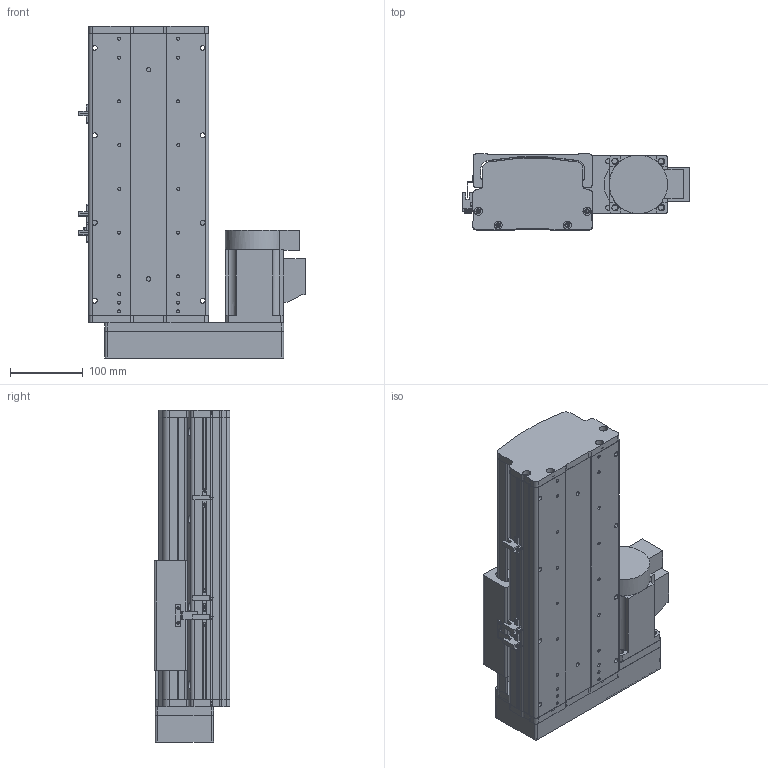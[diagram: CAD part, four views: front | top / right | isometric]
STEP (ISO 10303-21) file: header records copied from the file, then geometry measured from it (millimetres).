
FILE_DESCRIPTION (( 'STEP AP214' ), '1' );
FILE_NAME ('KSD165S-S150-ML-CM .STEP', '2017-10-17T08:41:27', ( '微软用户' ), ( '微软中国' ), 'SwSTEP 2.0', 'SolidWorks 2014', '' );
FILE_SCHEMA (( 'AUTOMOTIVE_DESIGN' ));
Length unit declared in the file: millimetre
Products named in the file (17): KSD165模组-丝杆上下左右折前端板; KSD165耀郪-佪裝-滅袉菜-3 -; KSD165耀郪-佪裝-滅袉菜-1; KSD165耀郪-綴傷啣1; KSD165模组-丝杆滑动座-最新版; KSD165S-S150-ML-CM ; 拸秶雄ん750W侜督萇儂; KSD165模组-防尘盖1-150行程-最新版; KSD165模组底板-150行程-最新; 覜茼え68遵圉猾敕; U倰嫖萇EEㄜSX672; U倰嫖萇假蚾璃; HTPA26S5M250-A-H8丝杆用(内径14）; HTPA26S5M250-A-H8 750W萇儂蚚; 肣翐M4X35樓6; 165宽模组保护罩左右折; 165宽模组马达安装板连板左右折丝杆
Assembly tree (23 placements, depth 2):
  KSD165S-S150-ML-CM 
    KSD165模组-丝杆滑动座-最新版
    KSD165耀郪-綴傷啣1
    KSD165耀郪-佪裝-滅袉菜-1
    KSD165耀郪-佪裝-滅袉菜-3 -
    KSD165模组-丝杆上下左右折前端板
    165宽模组马达安装板连板左右折丝杆
    165宽模组保护罩左右折
    肣翐M4X35樓6  x4
    HTPA26S5M250-A-H8 750W萇儂蚚
    HTPA26S5M250-A-H8丝杆用(内径14）
    U倰嫖萇假蚾璃  x3
    U倰嫖萇EEㄜSX672  x3
    覜茼え68遵圉猾敕
    KSD165模组底板-150行程-最新
    KSD165模组-防尘盖1-150行程-最新版
    拸秶雄ん750W侜督萇儂
Bounding box: 311.2 x 104 x 455.5 mm (x, y, z)
Volume: 4038756.6 mm3; surface area: 930258.4 mm2
Topology: 24 solids, 24 shells, 1797 faces, 5052 edges, 3295 vertices
Faces by surface type: cylinder 1119, plane 569, cone 109
Entity records: 56757 total; most frequent: CARTESIAN_POINT 11827, DIRECTION 9213, ORIENTED_EDGE 8584, EDGE_CURVE 4292, AXIS2_PLACEMENT_3D 3594, VERTEX_POINT 2824, CIRCLE 2036, LINE 2025
